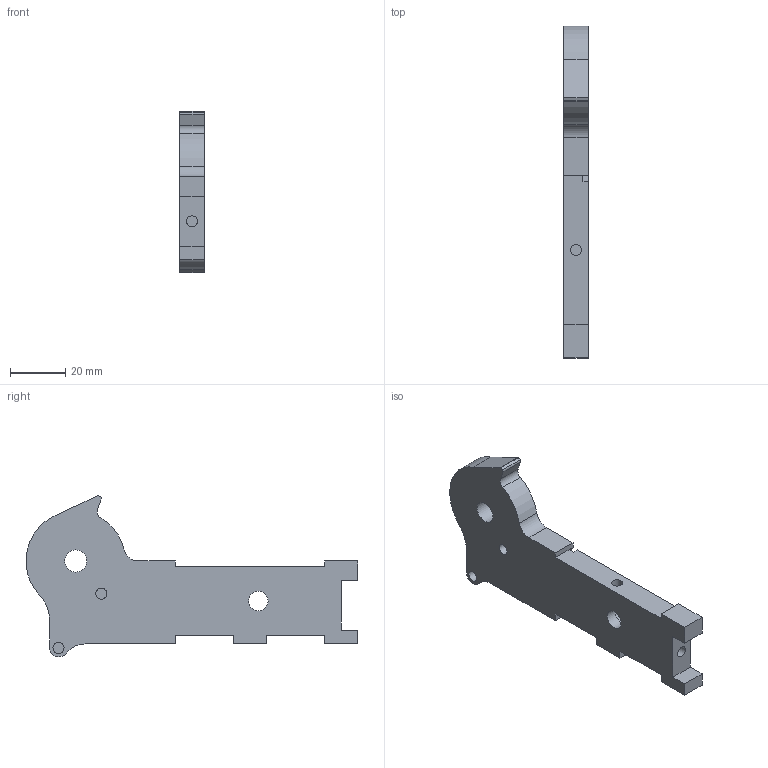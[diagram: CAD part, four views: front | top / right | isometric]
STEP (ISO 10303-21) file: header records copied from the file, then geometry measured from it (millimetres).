
FILE_DESCRIPTION(/* description */ (''),/* implementation_level */ '2;1');
FILE_NAME(/* name */ 'pared_izquierda.step',/* time_stamp */ '2026-03-08T22:58:07+01:00',/* author */ (''),/* organization */ (''),/* preprocessor_version */ 'ST-DEVELOPER v20.1',/* originating_system */ 'Autodesk Translation Framework v14.24.0.0',/* authorisation */ '');
FILE_SCHEMA (('AUTOMOTIVE_DESIGN { 1 0 10303 214 3 1 1 }'));
Length unit declared in the file: millimetre
Products named in the file (1): Flanders (v3~recovered)
Bounding box: 9 x 119.95 x 58.26 mm (x, y, z)
Volume: 30765.8 mm3; surface area: 11485.6 mm2
Topology: 1 solids, 1 shells, 63 faces, 158 edges, 105 vertices
Faces by surface type: plane 43, cylinder 20
Full cylindrical faces by diameter (mm): 4 x6, 7 x1, 8 x1, 16.3 x1
Entity records: 1949 total; most frequent: CARTESIAN_POINT 327, DIRECTION 326, ORIENTED_EDGE 316, EDGE_CURVE 158, LINE 118, VECTOR 118, VERTEX_POINT 105, AXIS2_PLACEMENT_3D 104
